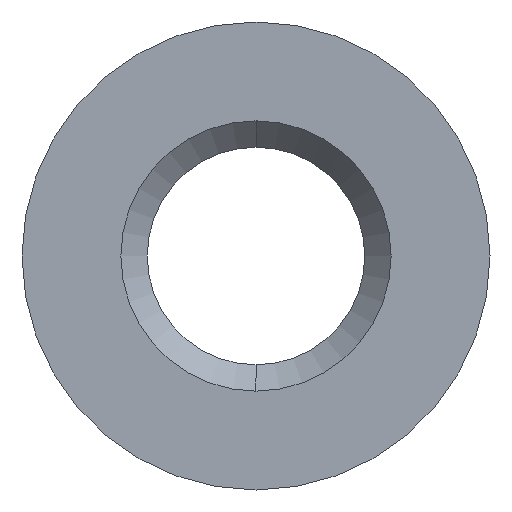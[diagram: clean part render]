
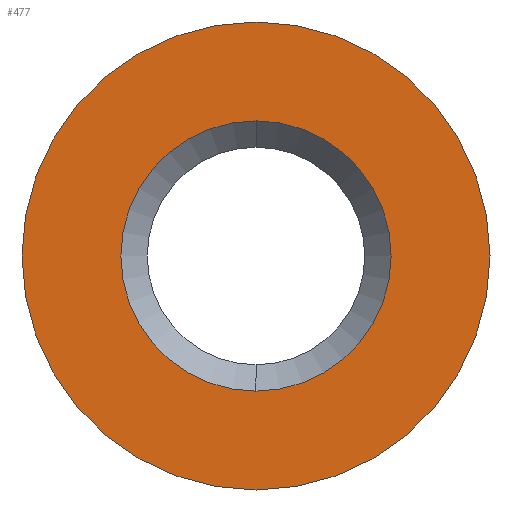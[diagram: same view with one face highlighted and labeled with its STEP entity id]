
A CAD part, left-side view. The second image highlights one B-rep face of the part: STEP entity #477.
In plain terms, the highlighted planar face has unit normal (-1, 0, 0).
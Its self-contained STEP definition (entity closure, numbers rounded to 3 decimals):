
#4 = ORIENTED_EDGE ( 'NONE', *, *, #748, .T. ) ;
#5 = ORIENTED_EDGE ( 'NONE', *, *, #329, .F. ) ;
#26 = DIRECTION ( 'NONE',  ( 1., 0., 0. ) ) ;
#34 = CARTESIAN_POINT ( 'NONE',  ( -9.11, 0., 2.05 ) ) ;
#91 = FACE_BOUND ( 'NONE', #548, .T. ) ;
#105 = EDGE_CURVE ( 'NONE', #754, #625, #823, .T. ) ;
#111 = PLANE ( 'NONE',  #845 ) ;
#206 = AXIS2_PLACEMENT_3D ( 'NONE', #508, #449, #723 ) ;
#264 = AXIS2_PLACEMENT_3D ( 'NONE', #796, #26, #571 ) ;
#303 = AXIS2_PLACEMENT_3D ( 'NONE', #826, #633, #699 ) ;
#307 = DIRECTION ( 'NONE',  ( 0., 0., 1. ) ) ;
#329 = EDGE_CURVE ( 'NONE', #895, #750, #695, .T. ) ;
#449 = DIRECTION ( 'NONE',  ( 1., 0., 0. ) ) ;
#457 = DIRECTION ( 'NONE',  ( -1., 0., 0. ) ) ;
#474 = ORIENTED_EDGE ( 'NONE', *, *, #763, .F. ) ;
#477 = ADVANCED_FACE ( 'NONE', ( #91, #787 ), #111, .T. ) ;
#500 = CARTESIAN_POINT ( 'NONE',  ( -9.11, 0., 0. ) ) ;
#508 = CARTESIAN_POINT ( 'NONE',  ( -9.11, 0., 0. ) ) ;
#534 = ORIENTED_EDGE ( 'NONE', *, *, #105, .T. ) ;
#548 = EDGE_LOOP ( 'NONE', ( #534, #4 ) ) ;
#571 = DIRECTION ( 'NONE',  ( 0., 0., -1. ) ) ;
#581 = CARTESIAN_POINT ( 'NONE',  ( -9.11, 3.55, 0. ) ) ;
#625 = VERTEX_POINT ( 'NONE', #877 ) ;
#633 = DIRECTION ( 'NONE',  ( 1., 0., 0. ) ) ;
#687 = CIRCLE ( 'NONE', #206, 2.05 ) ;
#695 = CIRCLE ( 'NONE', #303, 3.55 ) ;
#699 = DIRECTION ( 'NONE',  ( 0., 0., -1. ) ) ;
#717 = EDGE_LOOP ( 'NONE', ( #474, #5 ) ) ;
#723 = DIRECTION ( 'NONE',  ( 0., 0., 1. ) ) ;
#748 = EDGE_CURVE ( 'NONE', #625, #754, #687, .T. ) ;
#750 = VERTEX_POINT ( 'NONE', #789 ) ;
#754 = VERTEX_POINT ( 'NONE', #34 ) ;
#763 = EDGE_CURVE ( 'NONE', #750, #895, #780, .T. ) ;
#767 = AXIS2_PLACEMENT_3D ( 'NONE', #500, #775, #307 ) ;
#775 = DIRECTION ( 'NONE',  ( 1., 0., 0. ) ) ;
#780 = CIRCLE ( 'NONE', #264, 3.55 ) ;
#787 = FACE_OUTER_BOUND ( 'NONE', #717, .T. ) ;
#789 = CARTESIAN_POINT ( 'NONE',  ( -9.11, 0., -3.55 ) ) ;
#796 = CARTESIAN_POINT ( 'NONE',  ( -9.11, 0., 0. ) ) ;
#823 = CIRCLE ( 'NONE', #767, 2.05 ) ;
#826 = CARTESIAN_POINT ( 'NONE',  ( -9.11, 0., 0. ) ) ;
#834 = CARTESIAN_POINT ( 'NONE',  ( -9.11, 0., 3.55 ) ) ;
#845 = AXIS2_PLACEMENT_3D ( 'NONE', #581, #457, #850 ) ;
#850 = DIRECTION ( 'NONE',  ( 0., 0., 1. ) ) ;
#877 = CARTESIAN_POINT ( 'NONE',  ( -9.11, 0., -2.05 ) ) ;
#895 = VERTEX_POINT ( 'NONE', #834 ) ;
